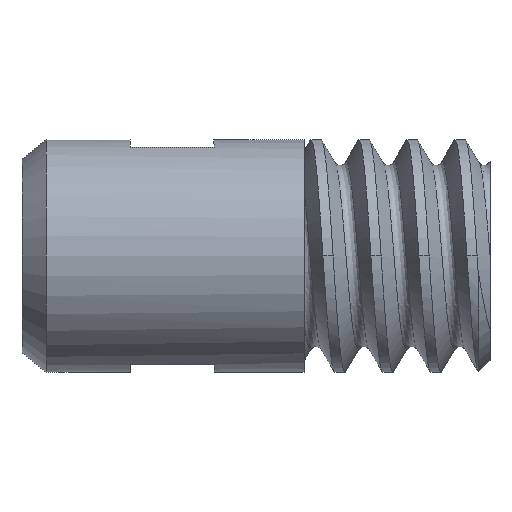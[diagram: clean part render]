
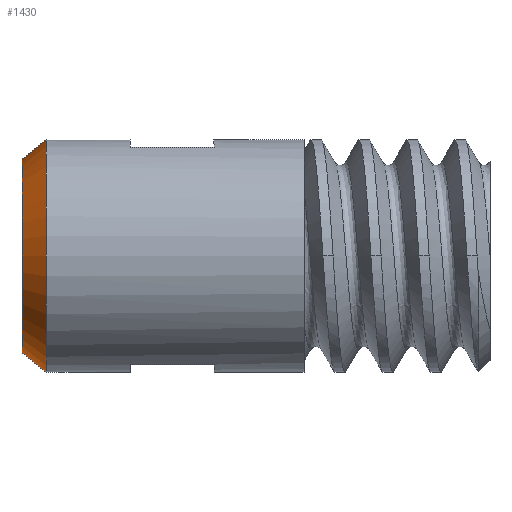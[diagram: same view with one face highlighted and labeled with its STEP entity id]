
A CAD part, left-side view. The second image highlights one B-rep face of the part: STEP entity #1430.
In plain terms, the highlighted conical face has half-angle 40 degrees and reference radius 4.85 mm.
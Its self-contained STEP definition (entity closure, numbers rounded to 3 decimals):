
#22 = VERTEX_POINT('',#23);
#23 = CARTESIAN_POINT('',(-4.85,5.25,0.));
#32 = CYLINDRICAL_SURFACE('',#33,4.85);
#33 = AXIS2_PLACEMENT_3D('',#34,#35,#36);
#34 = CARTESIAN_POINT('',(0.,6.25,0.));
#35 = DIRECTION('',(0.,1.,0.));
#36 = DIRECTION('',(-1.,0.,0.));
#51 = EDGE_CURVE('',#22,#22,#52,.T.);
#52 = SURFACE_CURVE('',#53,(#58,#65),.PCURVE_S1.);
#53 = CIRCLE('',#54,4.85);
#54 = AXIS2_PLACEMENT_3D('',#55,#56,#57);
#55 = CARTESIAN_POINT('',(0.,5.25,0.));
#56 = DIRECTION('',(0.,1.,-0.));
#57 = DIRECTION('',(-1.,0.,0.));
#58 = PCURVE('',#32,#59);
#59 = DEFINITIONAL_REPRESENTATION('',(#60),#64);
#60 = LINE('',#61,#62);
#61 = CARTESIAN_POINT('',(0.,-1.));
#62 = VECTOR('',#63,1.);
#63 = DIRECTION('',(1.,0.));
#64 = ( GEOMETRIC_REPRESENTATION_CONTEXT(2) 
PARAMETRIC_REPRESENTATION_CONTEXT() REPRESENTATION_CONTEXT('2D SPACE',''
  ) );
#65 = PCURVE('',#66,#71);
#66 = CONICAL_SURFACE('',#67,4.85,0.698);
#67 = AXIS2_PLACEMENT_3D('',#68,#69,#70);
#68 = CARTESIAN_POINT('',(0.,5.25,0.));
#69 = DIRECTION('',(-0.,-1.,-0.));
#70 = DIRECTION('',(-1.,0.,0.));
#71 = DEFINITIONAL_REPRESENTATION('',(#72),#76);
#72 = LINE('',#73,#74);
#73 = CARTESIAN_POINT('',(-0.,-0.));
#74 = VECTOR('',#75,1.);
#75 = DIRECTION('',(-1.,-0.));
#76 = ( GEOMETRIC_REPRESENTATION_CONTEXT(2) 
PARAMETRIC_REPRESENTATION_CONTEXT() REPRESENTATION_CONTEXT('2D SPACE',''
  ) );
#1430 = ADVANCED_FACE('',(#1431),#66,.T.);
#1431 = FACE_BOUND('',#1432,.T.);
#1432 = EDGE_LOOP('',(#1433,#1456,#1457,#1458));
#1433 = ORIENTED_EDGE('',*,*,#1434,.F.);
#1434 = EDGE_CURVE('',#22,#1435,#1437,.T.);
#1435 = VERTEX_POINT('',#1436);
#1436 = CARTESIAN_POINT('',(-4.011,6.25,0.));
#1437 = SEAM_CURVE('',#1438,(#1442,#1449),.PCURVE_S1.);
#1438 = LINE('',#1439,#1440);
#1439 = CARTESIAN_POINT('',(-4.85,5.25,0.));
#1440 = VECTOR('',#1441,1.);
#1441 = DIRECTION('',(0.643,0.766,0.));
#1442 = PCURVE('',#66,#1443);
#1443 = DEFINITIONAL_REPRESENTATION('',(#1444),#1448);
#1444 = LINE('',#1445,#1446);
#1445 = CARTESIAN_POINT('',(-0.,-0.));
#1446 = VECTOR('',#1447,1.);
#1447 = DIRECTION('',(-0.,-1.));
#1448 = ( GEOMETRIC_REPRESENTATION_CONTEXT(2) 
PARAMETRIC_REPRESENTATION_CONTEXT() REPRESENTATION_CONTEXT('2D SPACE',''
  ) );
#1449 = PCURVE('',#66,#1450);
#1450 = DEFINITIONAL_REPRESENTATION('',(#1451),#1455);
#1451 = LINE('',#1452,#1453);
#1452 = CARTESIAN_POINT('',(-6.283,-0.));
#1453 = VECTOR('',#1454,1.);
#1454 = DIRECTION('',(-0.,-1.));
#1455 = ( GEOMETRIC_REPRESENTATION_CONTEXT(2) 
PARAMETRIC_REPRESENTATION_CONTEXT() REPRESENTATION_CONTEXT('2D SPACE',''
  ) );
#1456 = ORIENTED_EDGE('',*,*,#51,.T.);
#1457 = ORIENTED_EDGE('',*,*,#1434,.T.);
#1458 = ORIENTED_EDGE('',*,*,#1459,.F.);
#1459 = EDGE_CURVE('',#1435,#1435,#1460,.T.);
#1460 = SURFACE_CURVE('',#1461,(#1466,#1473),.PCURVE_S1.);
#1461 = CIRCLE('',#1462,4.011);
#1462 = AXIS2_PLACEMENT_3D('',#1463,#1464,#1465);
#1463 = CARTESIAN_POINT('',(0.,6.25,0.));
#1464 = DIRECTION('',(0.,1.,-0.));
#1465 = DIRECTION('',(-1.,0.,0.));
#1466 = PCURVE('',#66,#1467);
#1467 = DEFINITIONAL_REPRESENTATION('',(#1468),#1472);
#1468 = LINE('',#1469,#1470);
#1469 = CARTESIAN_POINT('',(-0.,-1.));
#1470 = VECTOR('',#1471,1.);
#1471 = DIRECTION('',(-1.,-0.));
#1472 = ( GEOMETRIC_REPRESENTATION_CONTEXT(2) 
PARAMETRIC_REPRESENTATION_CONTEXT() REPRESENTATION_CONTEXT('2D SPACE',''
  ) );
#1473 = PCURVE('',#1474,#1479);
#1474 = PLANE('',#1475);
#1475 = AXIS2_PLACEMENT_3D('',#1476,#1477,#1478);
#1476 = CARTESIAN_POINT('',(0.,6.25,0.)
  );
#1477 = DIRECTION('',(0.,1.,0.));
#1478 = DIRECTION('',(0.,0.,1.));
#1479 = DEFINITIONAL_REPRESENTATION('',(#1480),#1484);
#1480 = CIRCLE('',#1481,4.011);
#1481 = AXIS2_PLACEMENT_2D('',#1482,#1483);
#1482 = CARTESIAN_POINT('',(0.,0.));
#1483 = DIRECTION('',(0.,-1.));
#1484 = ( GEOMETRIC_REPRESENTATION_CONTEXT(2) 
PARAMETRIC_REPRESENTATION_CONTEXT() REPRESENTATION_CONTEXT('2D SPACE',''
  ) );
